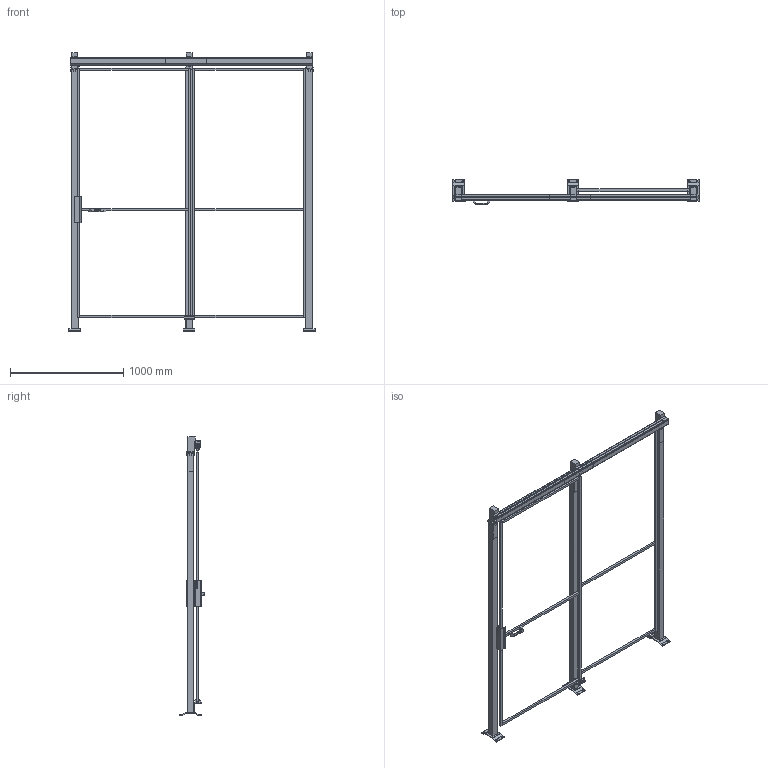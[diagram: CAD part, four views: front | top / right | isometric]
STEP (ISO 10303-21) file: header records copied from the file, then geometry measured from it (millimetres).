
FILE_DESCRIPTION(/* description */ (''),/* implementation_level */ '2;1');
FILE_NAME(/* name */ 'C:\SafeGuarding\ELABORATI\VZOR§POSUVNE_1950x2320_2025-02-13-12-21-44.stp',/* time_stamp */ '2025-02-13T12:21:46+01:00',/* author */ ('admin'),/* organization */ (''),/* preprocessor_version */ 'ST-DEVELOPER v18.1',/* originating_system */ 'AutoCAD Mechanical',/* authorisation */ '');
FILE_SCHEMA (('AUTOMOTIVE_DESIGN { 1 0 10303 214 3 1 1 }','MODEL_BASED_INTEGRATED_MANUFACTURING_SCHEMA'));
Length unit declared in the file: millimetre
Products named in the file (4): Product; R_VFPA.REPE20.10002200; DATI_PORTA; P_VFMA.ME60SDU.2320
Assembly tree (6 placements, depth 2):
  Product
    P_VFMA.ME60SDU.2320  x3
    R_VFPA.REPE20.10002200  x2
    DATI_PORTA
Bounding box: 2170 x 219.95 x 2454 mm (x, y, z)
Volume: 37250416.3 mm3; surface area: 4524868.4 mm2
Topology: 35 solids, 46 shells, 482 faces, 1560 edges, 1504 vertices
Faces by surface type: plane 442, cylinder 38, sphere 2
Full cylindrical faces by diameter (mm): 11 x12, 12 x2, 15 x4, 40 x4
Entity records: 12068 total; most frequent: CARTESIAN_POINT 2562, DIRECTION 1822, ORIENTED_EDGE 1758, EDGE_CURVE 928, LINE 874, VECTOR 874, VERTEX_POINT 660, AXIS2_PLACEMENT_3D 474
